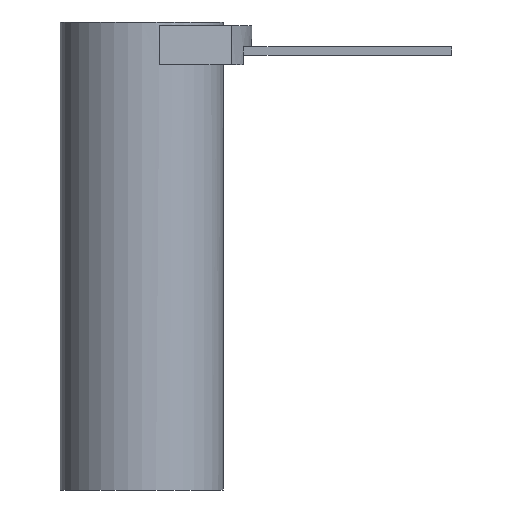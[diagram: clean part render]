
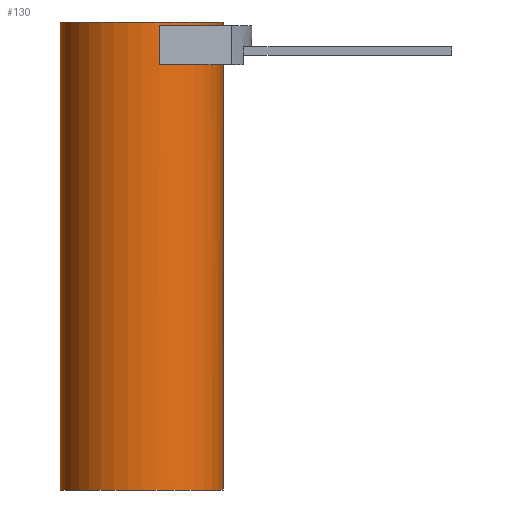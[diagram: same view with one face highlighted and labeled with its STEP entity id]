
A CAD part, front view. The second image highlights one B-rep face of the part: STEP entity #130.
In plain terms, the highlighted cylindrical face has radius 11.5 mm (diameter 23 mm), a partial arc.
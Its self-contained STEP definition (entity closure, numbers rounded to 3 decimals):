
#113=CYLINDRICAL_SURFACE('',#597,11.5);
#130=ADVANCED_FACE('',(#175),#113,.T.);
#175=FACE_OUTER_BOUND('',#198,.T.);
#198=EDGE_LOOP('',(#301,#302,#303,#304,#305,#306,#307,#308,#309,#310));
#224=CIRCLE('',#577,11.5);
#225=CIRCLE('',#580,11.5);
#230=CIRCLE('',#590,11.5);
#233=CIRCLE('',#595,11.5);
#234=CIRCLE('',#596,11.5);
#301=ORIENTED_EDGE('',*,*,#452,.F.);
#302=ORIENTED_EDGE('',*,*,#457,.F.);
#303=ORIENTED_EDGE('',*,*,#458,.T.);
#304=ORIENTED_EDGE('',*,*,#455,.T.);
#305=ORIENTED_EDGE('',*,*,#459,.F.);
#306=ORIENTED_EDGE('',*,*,#453,.F.);
#307=ORIENTED_EDGE('',*,*,#438,.F.);
#308=ORIENTED_EDGE('',*,*,#435,.F.);
#309=ORIENTED_EDGE('',*,*,#434,.F.);
#310=ORIENTED_EDGE('',*,*,#448,.F.);
#388=VERTEX_POINT('',#794);
#390=VERTEX_POINT('',#798);
#391=VERTEX_POINT('',#802);
#393=VERTEX_POINT('',#808);
#398=VERTEX_POINT('',#825);
#400=VERTEX_POINT('',#833);
#401=VERTEX_POINT('',#837);
#402=VERTEX_POINT('',#839);
#403=VERTEX_POINT('',#841);
#404=VERTEX_POINT('',#843);
#434=EDGE_CURVE('',#390,#388,#224,.T.);
#435=EDGE_CURVE('',#388,#391,#498,.T.);
#438=EDGE_CURVE('',#391,#393,#225,.T.);
#448=EDGE_CURVE('',#398,#390,#508,.T.);
#452=EDGE_CURVE('',#400,#398,#230,.T.);
#453=EDGE_CURVE('',#393,#401,#510,.T.);
#455=EDGE_CURVE('',#403,#402,#511,.T.);
#457=EDGE_CURVE('',#404,#400,#512,.T.);
#458=EDGE_CURVE('',#404,#403,#233,.T.);
#459=EDGE_CURVE('',#401,#402,#234,.T.);
#498=LINE('',#801,#537);
#508=LINE('',#827,#547);
#510=LINE('',#836,#549);
#511=LINE('',#840,#550);
#512=LINE('',#844,#551);
#537=VECTOR('',#647,1.);
#547=VECTOR('',#671,1.);
#549=VECTOR('',#685,1.);
#550=VECTOR('',#688,1.);
#551=VECTOR('',#691,1.);
#577=AXIS2_PLACEMENT_3D('',#799,#643,#644);
#580=AXIS2_PLACEMENT_3D('',#807,#652,#653);
#590=AXIS2_PLACEMENT_3D('',#834,#681,#682);
#595=AXIS2_PLACEMENT_3D('',#846,#694,#695);
#596=AXIS2_PLACEMENT_3D('',#847,#696,#697);
#597=AXIS2_PLACEMENT_3D('',#848,#698,#699);
#643=DIRECTION('',(0.,0.,1.));
#644=DIRECTION('',(-1.,0.,0.));
#647=DIRECTION('',(0.,0.,1.));
#652=DIRECTION('',(0.,0.,1.));
#653=DIRECTION('',(0.565,-0.825,0.));
#671=DIRECTION('',(0.,0.,-1.));
#681=DIRECTION('',(0.,0.,-1.));
#682=DIRECTION('',(-1.,0.,0.));
#685=DIRECTION('',(0.,0.,-1.));
#688=DIRECTION('',(0.,0.,-1.));
#691=DIRECTION('',(0.,0.,-1.));
#694=DIRECTION('',(0.,0.,-1.));
#695=DIRECTION('',(0.,1.,0.));
#696=DIRECTION('',(0.,0.,-1.));
#697=DIRECTION('',(0.,1.,0.));
#698=DIRECTION('',(0.,0.,-1.));
#699=DIRECTION('',(0.,-1.,0.));
#794=CARTESIAN_POINT('',(9.811,-6.,60.));
#798=CARTESIAN_POINT('',(2.47,-11.232,60.));
#799=CARTESIAN_POINT('',(0.,0.,60.));
#801=CARTESIAN_POINT('',(9.811,-6.,59.98));
#802=CARTESIAN_POINT('',(9.811,-6.,62.5));
#807=CARTESIAN_POINT('',(0.,0.,62.5));
#808=CARTESIAN_POINT('',(11.5,0.,62.5));
#825=CARTESIAN_POINT('',(2.47,-11.232,65.5));
#827=CARTESIAN_POINT('',(2.47,-11.232,66.02));
#833=CARTESIAN_POINT('',(11.5,0.,65.5));
#834=CARTESIAN_POINT('',(0.,0.,65.5));
#836=CARTESIAN_POINT('',(11.5,0.,0.));
#837=CARTESIAN_POINT('',(11.5,0.,0.));
#839=CARTESIAN_POINT('',(-11.5,0.,0.));
#840=CARTESIAN_POINT('',(-11.5,0.,0.));
#841=CARTESIAN_POINT('',(-11.5,0.,66.));
#843=CARTESIAN_POINT('',(11.5,0.,66.));
#844=CARTESIAN_POINT('',(11.5,0.,0.));
#846=CARTESIAN_POINT('',(0.,0.,66.));
#847=CARTESIAN_POINT('',(0.,0.,0.));
#848=CARTESIAN_POINT('',(0.,0.,66.));
